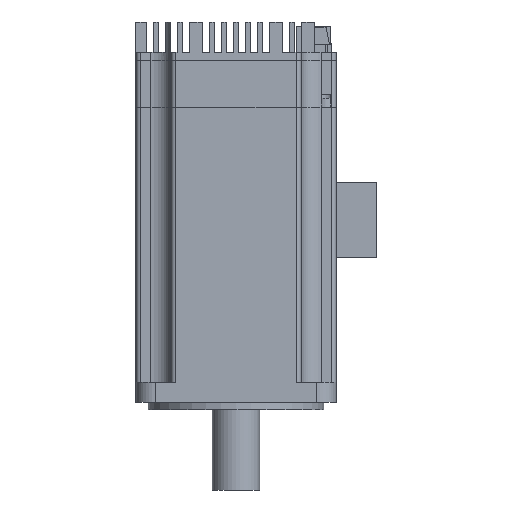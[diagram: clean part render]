
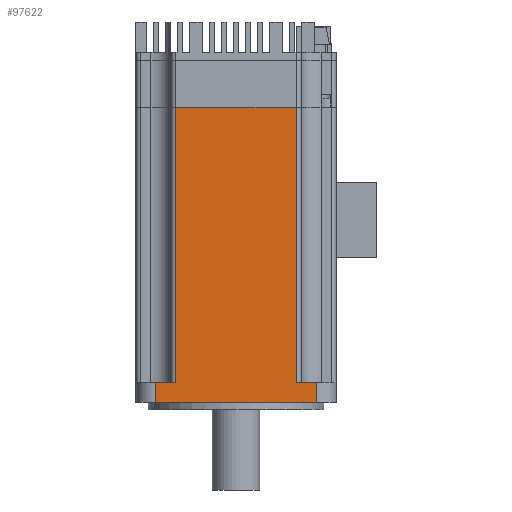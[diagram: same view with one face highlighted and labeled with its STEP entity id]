
A CAD part, front view. The second image highlights one B-rep face of the part: STEP entity #97622.
In plain terms, the highlighted planar face has unit normal (0, -1, 0).
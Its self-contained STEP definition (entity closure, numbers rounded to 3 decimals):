
#586 = VECTOR ( 'NONE', #1299, 1000. ) ;
#1299 = DIRECTION ( 'NONE',  ( 0., 0., -1. ) ) ;
#8136 = DIRECTION ( 'NONE',  ( 0., 0., -1. ) ) ;
#10641 = VECTOR ( 'NONE', #85698, 1000. ) ;
#12837 = DIRECTION ( 'NONE',  ( 1., 0., 0. ) ) ;
#20297 = EDGE_CURVE ( 'NONE', #141312, #65233, #99772, .T. ) ;
#25233 = VECTOR ( 'NONE', #8136, 1000. ) ;
#35296 = CARTESIAN_POINT ( 'NONE',  ( -32., -40., 8. ) ) ;
#36263 = ORIENTED_EDGE ( 'NONE', *, *, #20297, .T. ) ;
#39403 = ORIENTED_EDGE ( 'NONE', *, *, #54818, .F. ) ;
#43594 = ORIENTED_EDGE ( 'NONE', *, *, #136862, .F. ) ;
#44869 = CARTESIAN_POINT ( 'NONE',  ( 24., -40., 8. ) ) ;
#46662 = CARTESIAN_POINT ( 'NONE',  ( 32., -40., 8. ) ) ;
#48489 = CARTESIAN_POINT ( 'NONE',  ( -32., -40., 0. ) ) ;
#49552 = VECTOR ( 'NONE', #85677, 1000. ) ;
#53809 = LINE ( 'NONE', #120018, #586 ) ;
#54334 = CARTESIAN_POINT ( 'NONE',  ( -32., -40., 0. ) ) ;
#54818 = EDGE_CURVE ( 'NONE', #141312, #65831, #62178, .T. ) ;
#57356 = EDGE_LOOP ( 'NONE', ( #82529, #160249, #57523, #160267, #43594, #60155, #39403, #36263 ) ) ;
#57523 = ORIENTED_EDGE ( 'NONE', *, *, #71888, .F. ) ;
#60155 = ORIENTED_EDGE ( 'NONE', *, *, #123669, .T. ) ;
#62178 = LINE ( 'NONE', #113996, #145572 ) ;
#65233 = VERTEX_POINT ( 'NONE', #48489 ) ;
#65831 = VERTEX_POINT ( 'NONE', #107198 ) ;
#66751 = DIRECTION ( 'NONE',  ( 0., 0., -1. ) ) ;
#70347 = VERTEX_POINT ( 'NONE', #95372 ) ;
#71888 = EDGE_CURVE ( 'NONE', #131289, #70347, #147319, .T. ) ;
#72157 = VERTEX_POINT ( 'NONE', #137671 ) ;
#75028 = EDGE_CURVE ( 'NONE', #72157, #131289, #53809, .T. ) ;
#75761 = DIRECTION ( 'NONE',  ( 1., 0., 0. ) ) ;
#78697 = LINE ( 'NONE', #142580, #125128 ) ;
#82529 = ORIENTED_EDGE ( 'NONE', *, *, #99849, .T. ) ;
#82642 = DIRECTION ( 'NONE',  ( 1., 0., 0. ) ) ;
#85677 = DIRECTION ( 'NONE',  ( 0., 0., -1. ) ) ;
#85698 = DIRECTION ( 'NONE',  ( 1., 0., 0. ) ) ;
#92921 = CARTESIAN_POINT ( 'NONE',  ( -32., -40., 8. ) ) ;
#95372 = CARTESIAN_POINT ( 'NONE',  ( 32., -40., 8. ) ) ;
#95755 = CARTESIAN_POINT ( 'NONE',  ( -32., -40., 8. ) ) ;
#97622 = ADVANCED_FACE ( 'NONE', ( #129158 ), #103649, .F. ) ;
#99772 = LINE ( 'NONE', #35296, #25233 ) ;
#99849 = EDGE_CURVE ( 'NONE', #65233, #145705, #130043, .T. ) ;
#100168 = LINE ( 'NONE', #164902, #10641 ) ;
#103649 = PLANE ( 'NONE',  #154786 ) ;
#104496 = DIRECTION ( 'NONE',  ( 0., 0., 1. ) ) ;
#107198 = CARTESIAN_POINT ( 'NONE',  ( -24., -40., 8. ) ) ;
#113996 = CARTESIAN_POINT ( 'NONE',  ( -32., -40., 8. ) ) ;
#120018 = CARTESIAN_POINT ( 'NONE',  ( 24., -40., 118. ) ) ;
#123669 = EDGE_CURVE ( 'NONE', #137448, #65831, #78697, .T. ) ;
#125128 = VECTOR ( 'NONE', #66751, 1000. ) ;
#129158 = FACE_OUTER_BOUND ( 'NONE', #57356, .T. ) ;
#130019 = DIRECTION ( 'NONE',  ( 0., 1., 0. ) ) ;
#130043 = LINE ( 'NONE', #54334, #136922 ) ;
#131289 = VERTEX_POINT ( 'NONE', #44869 ) ;
#136384 = CARTESIAN_POINT ( 'NONE',  ( -24., -40., 118. ) ) ;
#136862 = EDGE_CURVE ( 'NONE', #137448, #72157, #100168, .T. ) ;
#136922 = VECTOR ( 'NONE', #12837, 1000. ) ;
#137448 = VERTEX_POINT ( 'NONE', #136384 ) ;
#137671 = CARTESIAN_POINT ( 'NONE',  ( 24., -40., 118. ) ) ;
#141312 = VERTEX_POINT ( 'NONE', #95755 ) ;
#142580 = CARTESIAN_POINT ( 'NONE',  ( -24., -40., 118. ) ) ;
#142833 = CARTESIAN_POINT ( 'NONE',  ( -32., -40., 8. ) ) ;
#145572 = VECTOR ( 'NONE', #75761, 1000. ) ;
#145705 = VERTEX_POINT ( 'NONE', #156808 ) ;
#147319 = LINE ( 'NONE', #92921, #168274 ) ;
#149183 = EDGE_CURVE ( 'NONE', #70347, #145705, #152101, .T. ) ;
#152101 = LINE ( 'NONE', #46662, #49552 ) ;
#154786 = AXIS2_PLACEMENT_3D ( 'NONE', #142833, #130019, #104496 ) ;
#156808 = CARTESIAN_POINT ( 'NONE',  ( 32., -40., 0. ) ) ;
#160249 = ORIENTED_EDGE ( 'NONE', *, *, #149183, .F. ) ;
#160267 = ORIENTED_EDGE ( 'NONE', *, *, #75028, .F. ) ;
#164902 = CARTESIAN_POINT ( 'NONE',  ( -24., -40., 118. ) ) ;
#168274 = VECTOR ( 'NONE', #82642, 1000. ) ;
